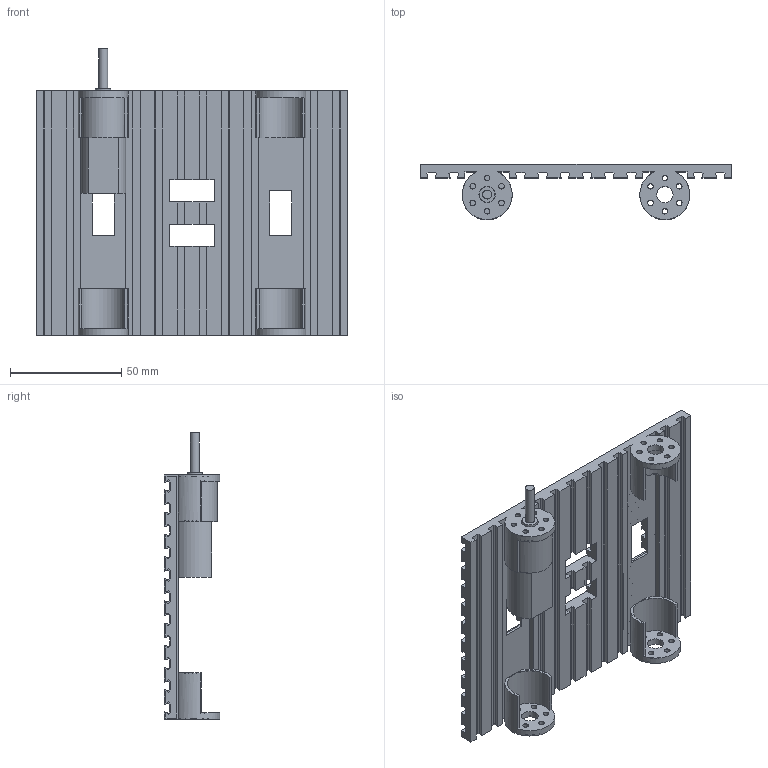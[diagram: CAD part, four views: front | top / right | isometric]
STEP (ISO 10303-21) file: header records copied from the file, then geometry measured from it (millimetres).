
FILE_DESCRIPTION(/* description */ (''),/* implementation_level */ '2;1');
FILE_NAME(/* name */ 'C:/Users/priba/Downloads/Chassis20mm110.step',/* time_stamp */ '2020-09-13T09:14:32+02:00',/* author */ (''),/* organization */ (''),/* preprocessor_version */ 'ST-DEVELOPER v18.1',/* originating_system */ 'Autodesk Translation Framework v9.3.0.1241',/* authorisation */ '');
FILE_SCHEMA (('AUTOMOTIVE_DESIGN { 1 0 10303 214 3 1 1 }'));
Length unit declared in the file: millimetre
Products named in the file (2): Chassis20mm110; Motor20mm
Assembly tree (1 placements, depth 2):
  Chassis20mm110
    Motor20mm
Bounding box: 140 x 24.94 x 129 mm (x, y, z)
Volume: 43889.8 mm3; surface area: 107133.8 mm2
Topology: 2 solids, 6 shells, 592 faces, 1859 edges, 1238 vertices
Faces by surface type: plane 513, cylinder 79
Full cylindrical faces by diameter (mm): 2.5 x26, 3.6 x24, 4 x1, 7 x1, 7.4 x4, 8.5 x4, 20 x1, 21.403 x4
Entity records: 20715 total; most frequent: ORIENTED_EDGE 3718, CARTESIAN_POINT 3692, DIRECTION 3227, EDGE_CURVE 1859, LINE 1681, VECTOR 1681, VERTEX_POINT 1238, AXIS2_PLACEMENT_3D 773
